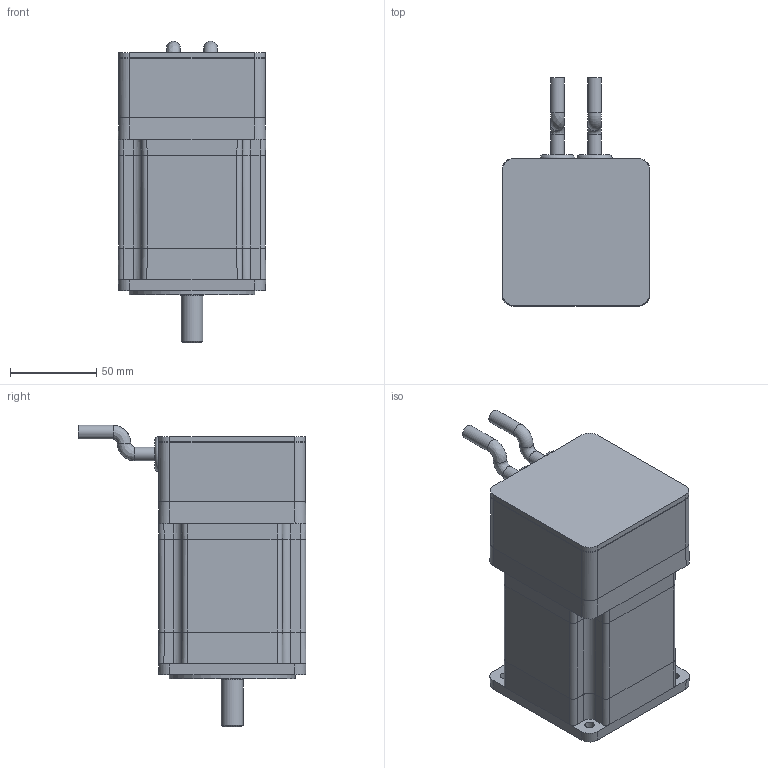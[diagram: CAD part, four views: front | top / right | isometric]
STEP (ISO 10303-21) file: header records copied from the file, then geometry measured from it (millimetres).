
FILE_DESCRIPTION((''),'2;1');
FILE_NAME('C:\CAD_work\Dummy_Modeling_Project_02-12-05\3D MODELS\BE342_CBL.stp','2005-12-20T16:01:00',('jevans'),(''),'Autodesk Inventor 10','Autodesk Inventor 10','');
FILE_SCHEMA(('AUTOMOTIVE_DESIGN { 1 0 10303 214 1 1 1 1 }'));
Length unit declared in the file: inch
Products named in the file (1): BE34_CBL
Bounding box: 85.66 x 132.36 x 175.04 mm (x, y, z)
Volume: 943956.2 mm3; surface area: 75073.9 mm2
Topology: 4 solids, 4 shells, 214 faces, 520 edges, 323 vertices
Faces by surface type: plane 106, cylinder 84, bspline 15, cone 6, torus 3
Full cylindrical faces by diameter (mm): 2.5 x2, 7.95 x2, 12.7 x1, 14.994 x1, 15 x1, 20.32 x1, 32 x1, 32.007 x1, 35.001 x1, 36.779 x1, 37.109 x1, 41.326 x3, 73.025 x1
Entity records: 6415 total; most frequent: CARTESIAN_POINT 1476, DIRECTION 1068, ORIENTED_EDGE 940, EDGE_CURVE 470, AXIS2_PLACEMENT_3D 398, VERTEX_POINT 312, EDGE_LOOP 278, VECTOR 272
